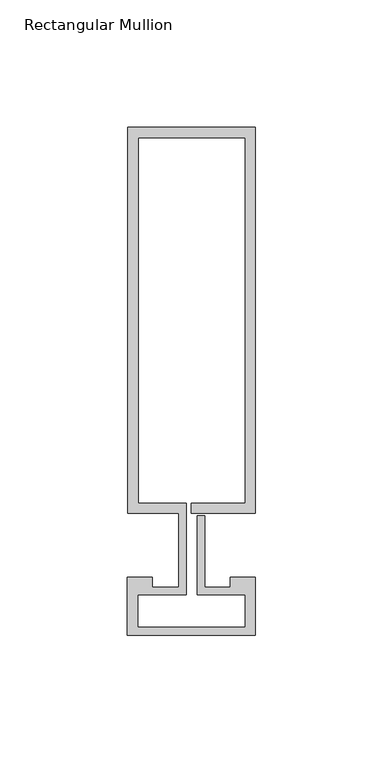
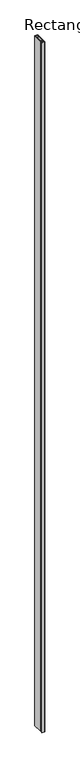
"""IFC4 building model written with IfcOpenShell, lengths in millimetres: member geometry, Rectangular Mullion : Reynaers_CW-50_Mullion-Transom_Horizontal_151.4mm_Facecap-02C."""

from ifc_helpers import new_model, si_unit, frame, origin, place, context, project, spatial, polyline, outline, extrude, source, transform, mapped, element, save


def rectangular_mullion_46ebe289(model_context):
    return source(origin(), model_context, "Body", "SweptSolid", [
        extrude(outline(polyline([(-24.8004059, 163.9), (25.1995941, 163.9), (25.1995941, 12.5), (0.0, 12.5), (0.0, 16.5), (21.1995941, 16.5), (21.1995941, 159.9), (-20.8004059, 159.9), (-20.8004059, 16.5), (-1.9004059, 16.5), (-1.9004059, -19.5), (-20.994845, -19.5), (-20.994845, -32.2191338), (21.1995941, -32.2191338), (21.1995941, -19.5), (2.2995941, -19.5), (2.2995941, 11.5), (5.2995941, 11.5), (5.2995941, -16.5), (15.2996495, -16.5), (15.2996495, -12.5), (25.1995941, -12.5), (25.1995941, -35.3), (-24.994845, -35.3), (-24.994845, -12.5), (-15.2996495, -12.5), (-15.2996495, -16.5), (-4.9004059, -16.5), (-4.9004059, 12.5), (-24.8004059, 12.5), (-24.8004059, 163.9)])), frame((0.0, 0.0, -12000.0), z_axis=(0.0, 0.0, 1.0), x_axis=(1.0, 0.0, 0.0)), (0.0, 0.0, 1.0), 12000.0),
    ])


if __name__ == "__main__":
    model = new_model("IFC4")
    model_context = context("Model", 3, world=origin())
    ifc_project = project(units=[si_unit("LENGTHUNIT", "METRE", prefix="MILLI")], contexts=[model_context])
    site = spatial("IfcSite", under=ifc_project)
    building = spatial("IfcBuilding", under=site)
    placement = place(None, origin())
    rectangular_mullion_shape = rectangular_mullion_46ebe289(model_context)
    element("IfcMember", 1, ObjectType="Rectangular Mullion : Reynaers_CW-50_Mullion-Transom_Horizontal_151.4mm_Facecap-02C", at=placement, inside=building, context=model_context, shape_type="MappedRepresentation", body=[
        mapped(rectangular_mullion_shape, transform((0.0, 0.0, 0.0), x_axis=(1.0, 0.0, 0.0), y_axis=(0.0, 1.0, 0.0), z_axis=(0.0, 0.0, 1.0))),
    ])
    save(model, "model.ifc")
